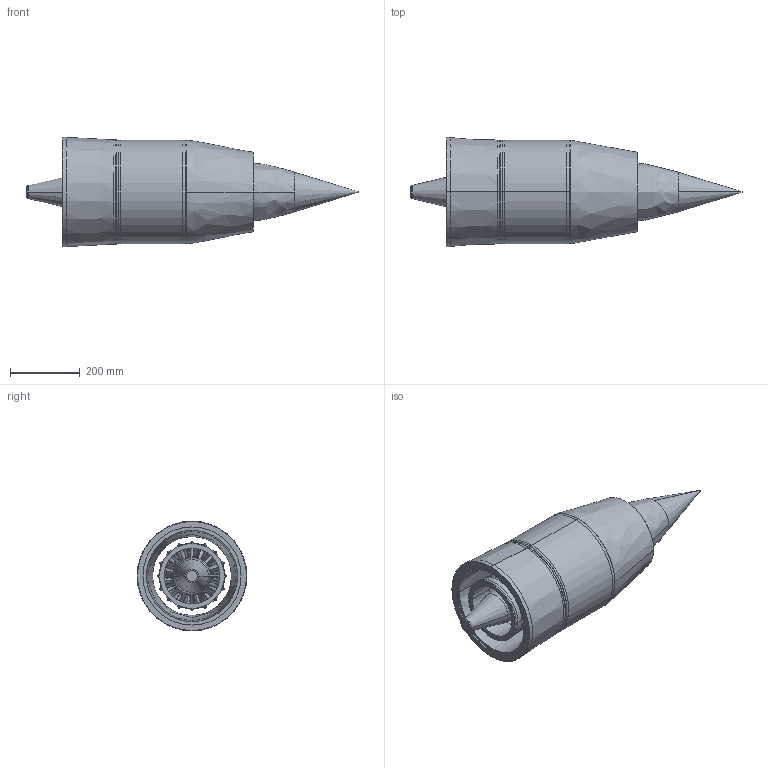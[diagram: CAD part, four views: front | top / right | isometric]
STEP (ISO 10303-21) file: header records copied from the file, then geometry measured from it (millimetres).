
FILE_DESCRIPTION (( 'STEP AP214' ), '1' );
FILE_NAME ('122DLm5p2069.STEP', '2020-09-16T14:59:39', ( '' ), ( '' ), 'SwSTEP 2.0', 'SolidWorks 2019', '' );
FILE_SCHEMA (( 'AUTOMOTIVE_DESIGN' ));
Length unit declared in the file: inch
Products named in the file (1): 122DLm5p2069
Bounding box: 950.49 x 314 x 314 mm (x, y, z)
Volume: 8469438.5 mm3; surface area: 2507658.4 mm2
Topology: 41 solids, 41 shells, 477 faces, 1112 edges, 738 vertices
Faces by surface type: bspline 270, plane 103, cylinder 68, cone 26, torus 10
Entity records: 96479 total; most frequent: CARTESIAN_POINT 81060, ORIENTED_EDGE 2224, EDGE_CURVE 1112, DIRECTION 918, B_SPLINE_CURVE_WITH_KNOTS 814, VERTEX_POINT 738, LENGTH_MEASURE_WITH_UNIT 520, UNCERTAINTY_MEASURE_WITH_UNIT 520
